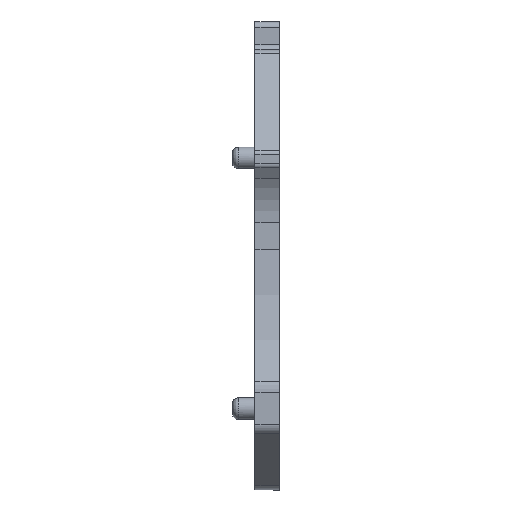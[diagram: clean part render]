
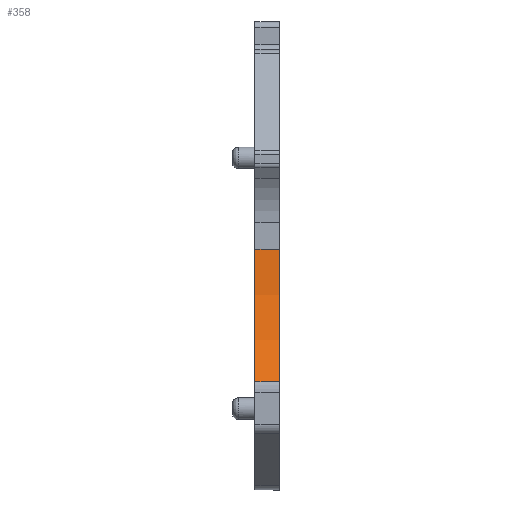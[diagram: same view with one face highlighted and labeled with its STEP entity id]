
A CAD part, left-side view. The second image highlights one B-rep face of the part: STEP entity #358.
In plain terms, the highlighted cylindrical face has radius 25 mm (diameter 50 mm), a partial arc.
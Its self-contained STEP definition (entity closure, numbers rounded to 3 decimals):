
#301=CARTESIAN_POINT('',(-25.15,0.,22.102));
#302=VERTEX_POINT('',#301);
#309=CARTESIAN_POINT('',(-25.15,-2.2,22.102));
#310=VERTEX_POINT('',#309);
#311=CARTESIAN_POINT('',(-25.15,-2.2,22.102));
#312=DIRECTION('',(0.,1.,0.));
#313=VECTOR('',#312,2.2);
#314=LINE('',#311,#313);
#315=EDGE_CURVE('',#310,#302,#314,.T.);
#326=CARTESIAN_POINT('',(-50.15,0.22,22.1));
#327=DIRECTION('',(0.88,0.,-0.476));
#328=DIRECTION('',(0.,-1.,0.));
#329=AXIS2_PLACEMENT_3D('',#326,#328,#327);
#330=CYLINDRICAL_SURFACE('',#329,25.);
#331=ORIENTED_EDGE('',*,*,#315,.F.);
#332=CARTESIAN_POINT('',(-28.159,-2.2,10.209));
#333=VERTEX_POINT('',#332);
#334=CARTESIAN_POINT('',(-50.15,-2.2,22.1));
#335=DIRECTION('',(0.88,0.,-0.476));
#336=DIRECTION('',(0.,-1.,0.));
#337=AXIS2_PLACEMENT_3D('',#334,#336,#335);
#338=CIRCLE('',#337,25.);
#339=EDGE_CURVE('',#333,#310,#338,.T.);
#340=ORIENTED_EDGE('E178',*,*,#339,.F.);
#341=CARTESIAN_POINT('',(-28.159,0.,10.209));
#342=VERTEX_POINT('',#341);
#343=CARTESIAN_POINT('',(-28.159,-2.2,10.209));
#344=DIRECTION('',(0.,1.,0.));
#345=VECTOR('',#344,2.2);
#346=LINE('',#343,#345);
#347=EDGE_CURVE('',#333,#342,#346,.T.);
#348=ORIENTED_EDGE('E257',*,*,#347,.T.);
#349=CARTESIAN_POINT('',(-50.15,0.,22.1));
#350=DIRECTION('',(0.88,0.,-0.476));
#351=DIRECTION('',(0.,-1.,0.));
#352=AXIS2_PLACEMENT_3D('',#349,#351,#350);
#353=CIRCLE('',#352,25.);
#354=EDGE_CURVE('',#342,#302,#353,.T.);
#355=ORIENTED_EDGE('E92',*,*,#354,.T.);
#356=EDGE_LOOP('',(#331,#340,#348,#355));
#357=FACE_OUTER_BOUND('',#356,.F.);
#358=ADVANCED_FACE('F17',(#357),#330,.F.);
